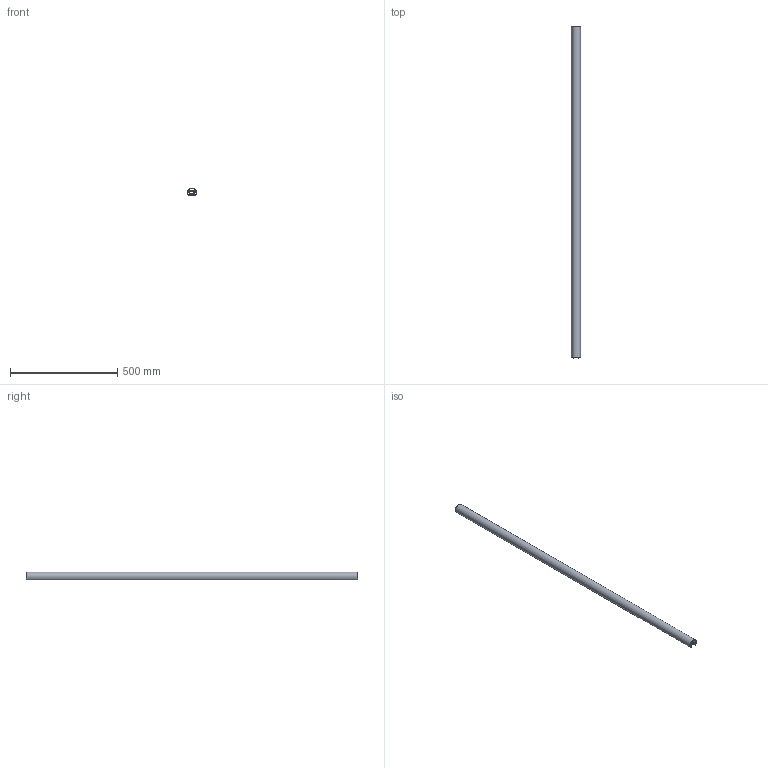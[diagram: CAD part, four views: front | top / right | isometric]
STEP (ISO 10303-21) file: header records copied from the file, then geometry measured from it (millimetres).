
FILE_DESCRIPTION(/* description */ ('STEP AP214'),/* implementation_level */ '2;1');
FILE_NAME(/* name */ '66fd4aa87202d813c79aab4e',/* time_stamp */ '2024-10-02T13:29:13Z',/* author */ (''),/* organization */ (''),/* preprocessor_version */ 'ST-DEVELOPER v20',/* originating_system */ ' ',/* authorisation */ ' ');
FILE_SCHEMA (('AUTOMOTIVE_DESIGN {1 0 10303 214 3 1 1}'));
Length unit declared in the file: metre
Products named in the file (5): ULTRA-SAFE-42.4-Lilly-sym-asym; A001148; A000423_k; Lilly vereinfacht; A001179
Assembly tree (4 placements, depth 2):
  ULTRA-SAFE-42.4-Lilly-sym-asym
    A001148
    A000423_k
    Lilly vereinfacht
    A001179
Bounding box: 42.37 x 1550 x 37 mm (x, y, z)
Volume: 925544.5 mm3; surface area: 734060.4 mm2
Topology: 4 solids, 4 shells, 180 faces, 474 edges, 305 vertices
Faces by surface type: plane 95, cylinder 77, bspline 8
Full cylindrical faces by diameter (mm): 4 x2, 4.2 x4, 5 x3, 6.6 x2
Entity records: 6880 total; most frequent: CARTESIAN_POINT 2307, DIRECTION 932, ORIENTED_EDGE 912, EDGE_CURVE 456, AXIS2_PLACEMENT_3D 315, LINE 302, VECTOR 302, VERTEX_POINT 298
